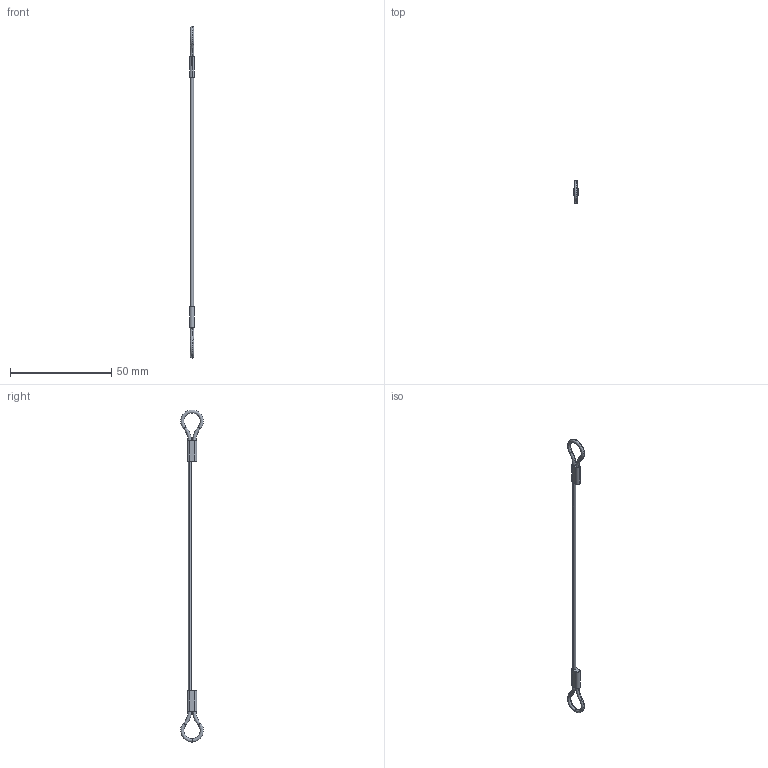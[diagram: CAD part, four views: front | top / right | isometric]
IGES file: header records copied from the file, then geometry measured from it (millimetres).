
Start section: SolidWorks IGES file using analytic representation for surfaces
Global section: file name: C:\Users\ianosborn\Desktop\LA1065_v2\LA1065_v2_20260320_IGES\LA1065.I06-152N1.igs; native system: SolidWorks 2019; preprocessor: SolidWorks 2019; author: IanOsborn; date: 260323.154348; units: millimetre
Bounding box: 2.4 x 11.18 x 163.57 mm (x, y, z)
Surface area: 1195.9 mm2 (no closed solid volume)
Topology: 0 solids, 0 shells, 30 faces, 336 edges, 336 vertices
Faces by surface type: bspline 22, revolution 8
